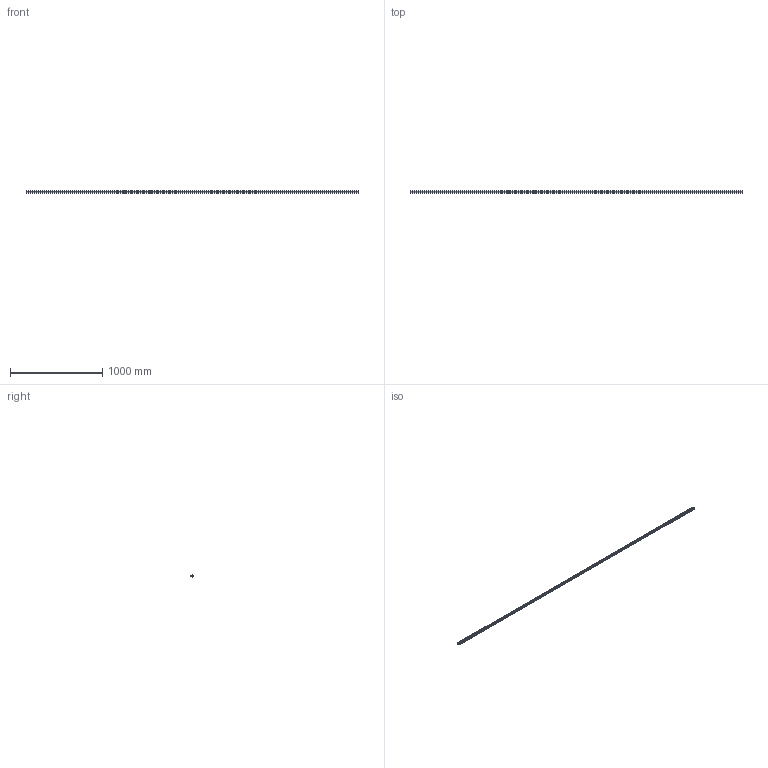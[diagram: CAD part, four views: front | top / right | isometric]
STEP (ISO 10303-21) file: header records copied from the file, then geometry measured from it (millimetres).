
FILE_DESCRIPTION (( 'STEP AP203' ), '1' );
FILE_NAME ('L1018.25R-3600.step', '2023-08-06T10:48:46', ( '' ), ( '' ), 'SwSTEP 2.0', 'SolidWorks 2019', '' );
FILE_SCHEMA (( 'CONFIG_CONTROL_DESIGN' ));
Length unit declared in the file: millimetre
Products named in the file (1): L1018.25R-3600
Bounding box: 3600 x 21.8 x 25 mm (x, y, z)
Volume: 1497197.2 mm3; surface area: 358325.2 mm2
Topology: 1 solids, 1 shells, 569 faces, 1281 edges, 714 vertices
Faces by surface type: cylinder 243, cone 240, plane 86
Entity records: 15038 total; most frequent: DIRECTION 2907, CARTESIAN_POINT 2445, ORIENTED_EDGE 2322, AXIS2_PLACEMENT_3D 1176, EDGE_CURVE 1161, VERTEX_POINT 714, EDGE_LOOP 689, CIRCLE 606
